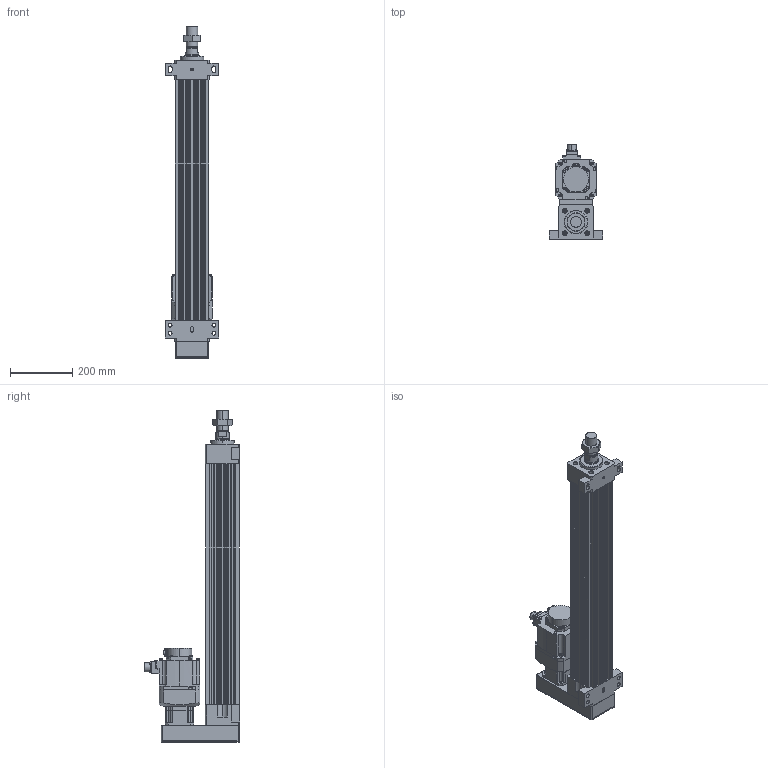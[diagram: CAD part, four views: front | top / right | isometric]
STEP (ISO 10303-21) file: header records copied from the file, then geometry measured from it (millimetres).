
FILE_DESCRIPTION (( 'STEP AP203' ), '1' );
FILE_NAME ('HES110NS(HS)-P600-W010G00-M-FFB.STEP', '2023-01-26T09:23:29', ( 'tms' ), ( '' ), 'SwSTEP 2.0', 'SolidWorks 2013', '' );
FILE_SCHEMA (( 'CONFIG_CONTROL_DESIGN' ));
Length unit declared in the file: millimetre
Products named in the file (8): HES110 ROD M ST600; HG-SR102; AB0901; M36X1.5P; HES110-P600-G090-FFB; HES110NS(HS)-P600-W010G00-M-FFB; P0401301004; AB090-003[HG-SR102B]
Assembly tree (7 placements, depth 3):
  HES110NS(HS)-P600-W010G00-M-FFB
    HES110-P600-G090-FFB
    HES110 ROD M ST600
    M36X1.5P
    AB090-003[HG-SR102B]
      AB0901
      P0401301004
    HG-SR102
Bounding box: 170 x 304.99 x 1063 mm (x, y, z)
Volume: 9331050.2 mm3; surface area: 1233169.4 mm2
Topology: 4 solids, 11 shells, 1083 faces, 2775 edges, 1806 vertices
Faces by surface type: cylinder 501, plane 500, cone 70, bspline 8, torus 4
Entity records: 34904 total; most frequent: CARTESIAN_POINT 6854, DIRECTION 5982, ORIENTED_EDGE 5502, EDGE_CURVE 2761, AXIS2_PLACEMENT_3D 2205, VERTEX_POINT 1806, LINE 1572, VECTOR 1572
